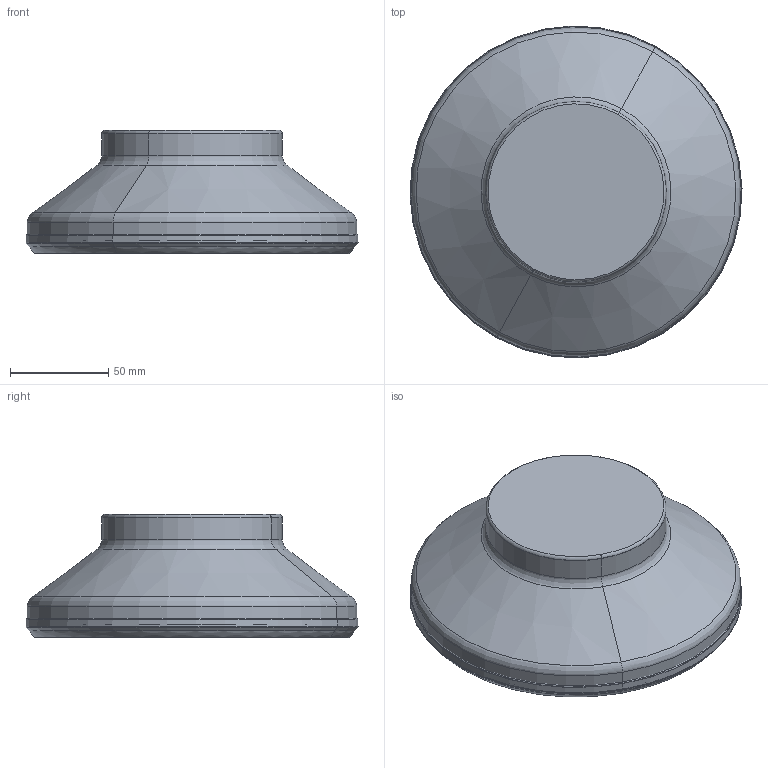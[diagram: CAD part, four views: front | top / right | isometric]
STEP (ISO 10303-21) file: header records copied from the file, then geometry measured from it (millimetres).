
FILE_DESCRIPTION(('CATIA V5 STEP Exchange'),'2;1');
FILE_NAME('I:\isr\design\admin8\users\hala_s\3106532 .stp','2012-11-01T13:43:54+00:00',('none'),('none'),'CATIA Version 5 Release 21 SP 3 (IN-10)','CATIA V5 STEP AP214','none');
FILE_SCHEMA(('AUTOMOTIVE_DESIGN { 1 0 10303 214 1 1 1 1 }'));
Length unit declared in the file: millimetre
Products named in the file (1): 61058560_0 Assembly IQ845 FSY D160-11-40-R07
Bounding box: 169.35 x 169.35 x 63 mm (x, y, z)
Volume: 638590.7 mm3; surface area: 86311.4 mm2
Topology: 2 solids, 2 shells, 79 faces, 156 edges, 80 vertices
Faces by surface type: torus 36, cone 36, cylinder 4, plane 3
Entity records: 1750 total; most frequent: ORIENTED_EDGE 312, CARTESIAN_POINT 281, DIRECTION 244, AXIS2_PLACEMENT_3D 161, EDGE_CURVE 156, CIRCLE 116, EDGE_LOOP 80, VERTEX_POINT 80
